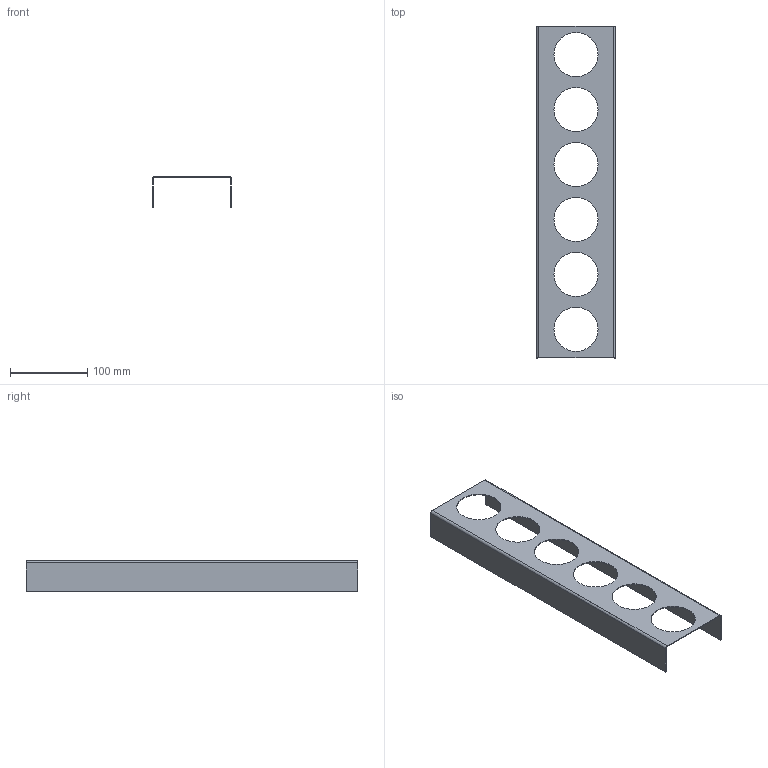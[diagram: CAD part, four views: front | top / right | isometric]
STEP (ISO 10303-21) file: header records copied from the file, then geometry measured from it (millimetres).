
FILE_DESCRIPTION (( 'STEP AP214' ), '1' );
FILE_NAME ('Gewuerzeinsatz_68326-01.STEP', '2010-10-25T13:53:51', ( 'grass' ), ( '' ), 'SwSTEP 2.0', 'SolidWorks 2010', '' );
FILE_SCHEMA (( 'AUTOMOTIVE_DESIGN' ));
Length unit declared in the file: millimetre
Products named in the file (1): Gewuerzeinsatz_68326-01
Bounding box: 102 x 429 x 40 mm (x, y, z)
Volume: 60988.8 mm3; surface area: 124265.7 mm2
Topology: 1 solids, 1 shells, 26 faces, 72 edges, 48 vertices
Faces by surface type: cylinder 16, plane 10
Entity records: 906 total; most frequent: DIRECTION 158, CARTESIAN_POINT 147, ORIENTED_EDGE 144, EDGE_CURVE 72, AXIS2_PLACEMENT_3D 59, VERTEX_POINT 48, VECTOR 40, LINE 40
